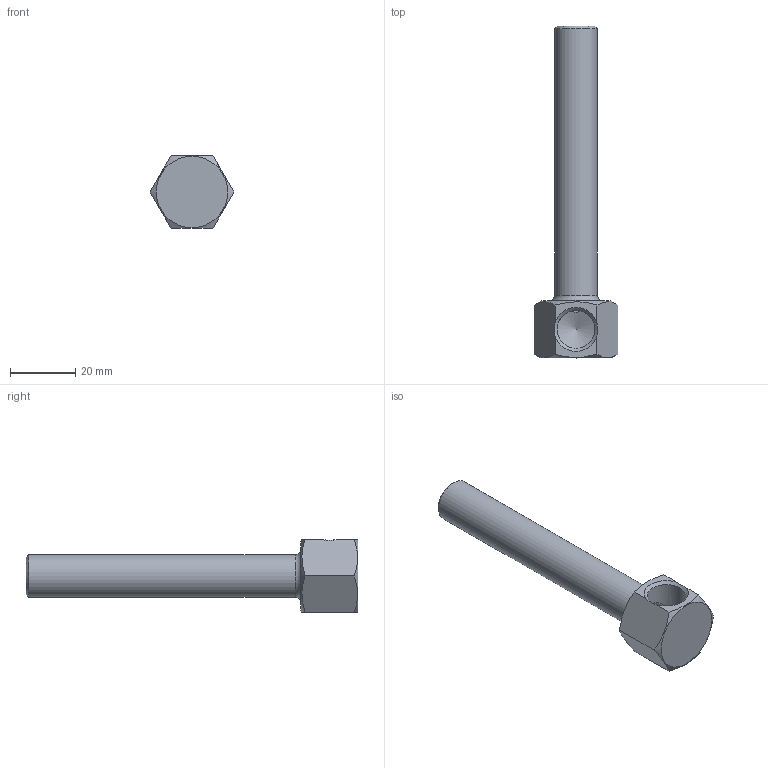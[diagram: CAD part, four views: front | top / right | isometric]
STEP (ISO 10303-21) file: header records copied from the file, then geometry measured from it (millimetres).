
FILE_DESCRIPTION(/* description */ (''),/* implementation_level */ '2;1');
FILE_NAME(/* name */ 'C:/Users/drich/Desktop/14B-4 v1.step',/* time_stamp */ '2019-12-29T15:18:19-06:00',/* author */ (''),/* organization */ (''),/* preprocessor_version */ 'ST-DEVELOPER v18',/* originating_system */ 'Autodesk Translation Framework v8.12.0.6',/* authorisation */ '');
FILE_SCHEMA (('AUTOMOTIVE_DESIGN { 1 0 10303 214 3 1 1 }'));
Length unit declared in the file: inch
Products named in the file (1): 14B-4
Bounding box: 25.66 x 101.6 x 22.23 mm (x, y, z)
Volume: 11718.1 mm3; surface area: 8358.1 mm2
Topology: 1 solids, 1 shells, 20 faces, 55 edges, 36 vertices
Faces by surface type: plane 10, cone 6, cylinder 3, torus 1
Full cylindrical faces by diameter (mm): 8.712 x1, 11.668 x1, 13.032 x1
Entity records: 710 total; most frequent: CARTESIAN_POINT 197, ORIENTED_EDGE 108, DIRECTION 93, EDGE_CURVE 54, AXIS2_PLACEMENT_3D 38, VERTEX_POINT 36, EDGE_LOOP 22, FACE_OUTER_BOUND 20
